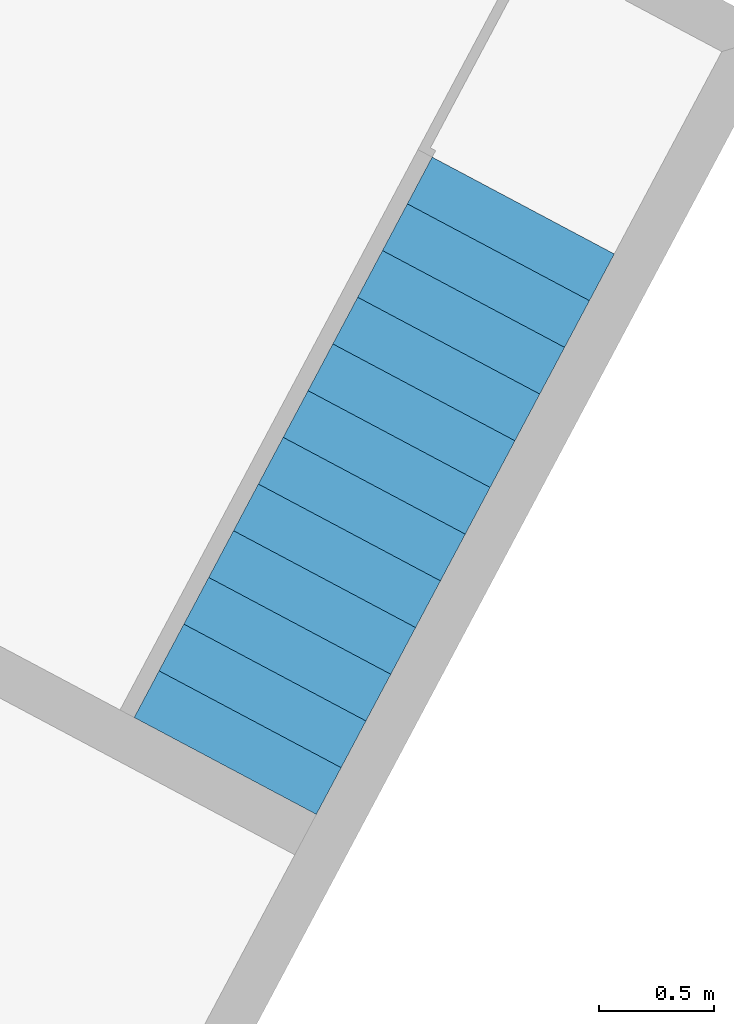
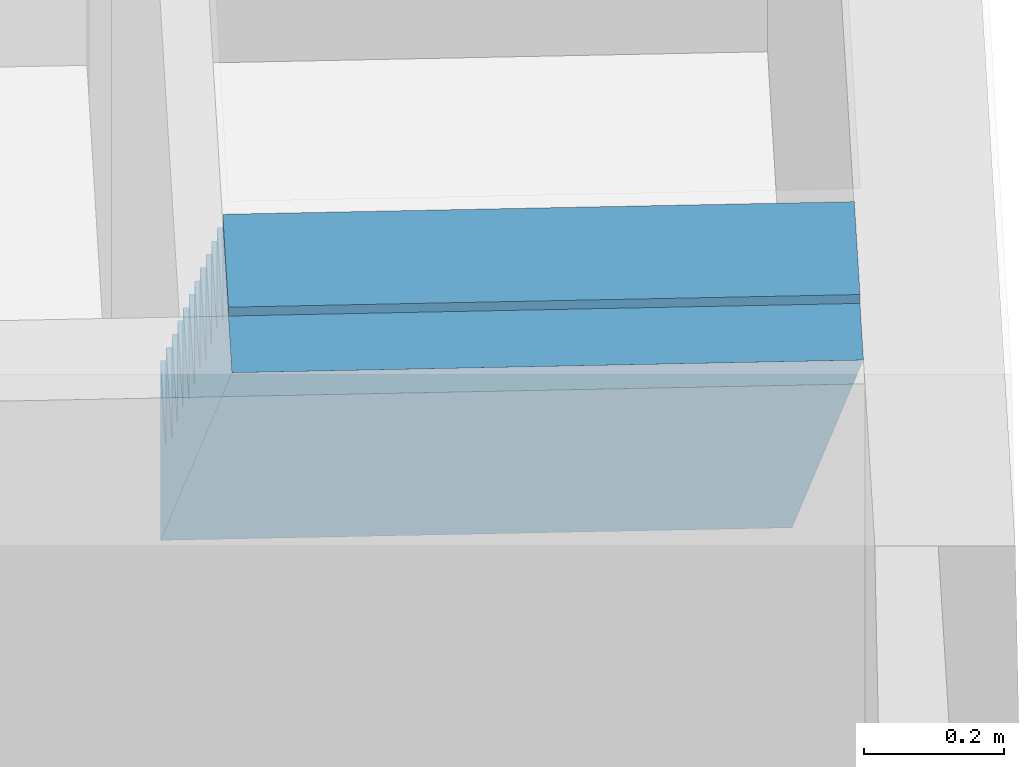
# One storey, part 2 of 2: 1 stair.
"""IFC2X3 building model written with IfcOpenShell, lengths in metres."""

from ifc_helpers import new_model, entity, si_unit, converted_unit, derived_unit, money_unit, direction, frame, origin_with_axes, place, context, subcontext, project, spatial, faceted_brep, element, save


model = new_model("IFC2X3")

# Units and contexts
model_context = context("Model", 3, precision=1e-05, world=origin_with_axes(), true_north=direction((0.0, 1.0)))
body_context = subcontext(model_context, "Body", "Model", "MODEL_VIEW")
ifc_project = project(units=[si_unit("LENGTHUNIT", "METRE"), si_unit("AREAUNIT", "SQUARE_METRE"), si_unit("VOLUMEUNIT", "CUBIC_METRE"), converted_unit("PLANEANGLEUNIT", "DEGREE", entity("IfcPlaneAngleMeasure", 0.0174532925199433), si_unit("PLANEANGLEUNIT", "RADIAN"), dimensions=[0, 0, 0, 0, 0, 0, 0]), money_unit("CHF"), converted_unit("TIMEUNIT", "Year", entity("IfcTimeMeasure", 31557600.0), si_unit("TIMEUNIT", "SECOND"), dimensions=[0, 0, 1, 0, 0, 0, 0]), si_unit("MASSUNIT", "GRAM", prefix="KILO"), si_unit("THERMODYNAMICTEMPERATUREUNIT", "DEGREE_CELSIUS"), si_unit("LUMINOUSINTENSITYUNIT", "LUMEN"), si_unit("ENERGYUNIT", "JOULE", prefix="MEGA"), derived_unit("THERMALCONDUCTANCEUNIT", [(si_unit("POWERUNIT", "WATT"), 1), (si_unit("LENGTHUNIT", "METRE"), -1), (si_unit("THERMODYNAMICTEMPERATUREUNIT", "KELVIN"), -1)]), derived_unit("SPECIFICHEATCAPACITYUNIT", [(si_unit("ENERGYUNIT", "JOULE"), 1), (si_unit("MASSUNIT", "GRAM", prefix="KILO"), -1), (si_unit("THERMODYNAMICTEMPERATUREUNIT", "KELVIN"), -1)]), derived_unit("MASSDENSITYUNIT", [(si_unit("MASSUNIT", "GRAM", prefix="KILO"), 1), (si_unit("VOLUMEUNIT", "CUBIC_METRE"), -1)])], contexts=[model_context])

# Site, building, storey
site_placement = place(None, frame((0.0, 0.0, 0.0), z_axis=(0.0, 0.0, 1.0), x_axis=(-0.4694715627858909, -0.8829475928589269, 0.0)))
site = spatial("IfcSite", under=ifc_project, at=site_placement, Name="Site", CompositionType="ELEMENT")
building_placement = place(site_placement, origin_with_axes())
building = spatial("IfcBuilding", under=site, at=building_placement, Name="Bâtiment", CompositionType="ELEMENT")
storey_placement = place(building_placement, frame((0.0, 0.0, -2.5), z_axis=(0.0, 0.0, 1.0), x_axis=(1.0, 0.0, 0.0)))
storey = spatial("IfcBuildingStorey", under=building, at=storey_placement, Name="CAVE", CompositionType="ELEMENT", Elevation=-2.5)

# Stair
stair_placement = place(storey_placement, frame((134.8895710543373, -822.1945991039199, 0.09999999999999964), z_axis=(0.0, 0.0, 1.0), x_axis=(0.0, -1.0, 0.0)))
element("IfcStair", 1, at=stair_placement, inside=storey, Name="Stair-013", ShapeType="NOTDEFINED", context=body_context, shape_type="Brep", body=[
    faceted_brep([(0.0, 0.0, 0.0), (0.0, 0.0, -0.128062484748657), (0.9, 0.0, -0.1280624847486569), (0.9, 0.0, 0.0), (0.0, 0.0, 0.1846153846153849), (0.0, 0.2307692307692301, 0.1846153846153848), (0.0, 0.2307692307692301, 0.3692307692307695), (0.0, 0.4615384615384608, 0.3692307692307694), (0.0, 0.4615384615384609, 0.5538461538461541), (0.0, 0.6923076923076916, 0.5538461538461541), (0.0, 0.6923076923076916, 0.7384615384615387), (0.0, 0.9230769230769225, 0.7384615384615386), (0.0, 0.9230769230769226, 0.9230769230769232), (0.0, 1.153846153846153, 0.9230769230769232), (0.0, 1.153846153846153, 1.107692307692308), (0.0, 1.384615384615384, 1.107692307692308), (0.0, 1.384615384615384, 1.292307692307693), (0.0, 1.615384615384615, 1.292307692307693), (0.0, 1.615384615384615, 1.476923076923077), (0.0, 1.846153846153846, 1.476923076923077), (0.0, 1.846153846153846, 1.661538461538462), (0.0, 2.076923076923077, 1.661538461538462), (0.0, 2.076923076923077, 1.846153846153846), (0.0, 2.307692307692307, 1.846153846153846), (0.0, 2.307692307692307, 2.030769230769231), (0.0, 2.538461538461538, 2.030769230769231), (0.0, 2.538461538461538, 2.215384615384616), (0.0, 2.769230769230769, 2.215384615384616), (0.0, 2.769230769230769, 2.2), (0.0, 2.910078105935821, 2.2), (0.8999999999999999, 2.910078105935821, 2.2), (0.8999999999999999, 2.769230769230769, 2.2), (0.8999999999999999, 2.769230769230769, 2.215384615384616), (0.8999999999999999, 2.538461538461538, 2.215384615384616), (0.8999999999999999, 2.538461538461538, 2.030769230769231), (0.8999999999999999, 2.307692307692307, 2.030769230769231), (0.8999999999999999, 2.307692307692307, 1.846153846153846), (0.8999999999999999, 2.076923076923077, 1.846153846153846), (0.8999999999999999, 2.076923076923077, 1.661538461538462), (0.8999999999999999, 1.846153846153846, 1.661538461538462), (0.8999999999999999, 1.846153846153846, 1.476923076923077), (0.8999999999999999, 1.615384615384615, 1.476923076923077), (0.8999999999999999, 1.615384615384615, 1.292307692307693), (0.8999999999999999, 1.384615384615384, 1.292307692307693), (0.8999999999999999, 1.384615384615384, 1.107692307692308), (0.8999999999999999, 1.153846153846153, 1.107692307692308), (0.8999999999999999, 1.153846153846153, 0.9230769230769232), (0.8999999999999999, 0.9230769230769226, 0.9230769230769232), (0.9, 0.9230769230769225, 0.7384615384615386), (0.9, 0.6923076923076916, 0.7384615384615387), (0.9, 0.6923076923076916, 0.5538461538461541), (0.9, 0.4615384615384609, 0.5538461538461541), (0.9, 0.4615384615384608, 0.3692307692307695), (0.9, 0.2307692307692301, 0.3692307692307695), (0.9, 0.2307692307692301, 0.1846153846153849), (0.9, 0.0, 0.1846153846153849)], [[[0, 1, 2, 3]], [[0, 4, 5, 6, 7, 8, 9, 10, 11, 12, 13, 14, 15, 16, 17, 18, 19, 20, 21, 22, 23, 24, 25, 26, 27, 28, 29, 1]], [[1, 29, 30, 2]], [[3, 2, 30, 31, 32, 33, 34, 35, 36, 37, 38, 39, 40, 41, 42, 43, 44, 45, 46, 47, 48, 49, 50, 51, 52, 53, 54, 55]], [[4, 0, 3, 55]], [[5, 4, 55, 54]], [[6, 5, 54, 53]], [[7, 6, 53, 52]], [[8, 7, 52, 51]], [[9, 8, 51, 50]], [[10, 9, 50, 49]], [[11, 10, 49, 48]], [[12, 11, 48, 47]], [[13, 12, 47, 46]], [[14, 13, 46, 45]], [[15, 14, 45, 44]], [[16, 15, 44, 43]], [[17, 16, 43, 42]], [[18, 17, 42, 41]], [[19, 18, 41, 40]], [[20, 19, 40, 39]], [[21, 20, 39, 38]], [[22, 21, 38, 37]], [[23, 22, 37, 36]], [[24, 23, 36, 35]], [[25, 24, 35, 34]], [[26, 25, 34, 33]], [[27, 26, 33, 32]], [[28, 27, 32, 31]], [[29, 28, 31, 30]]]),
])

save(model, "model.ifc")
